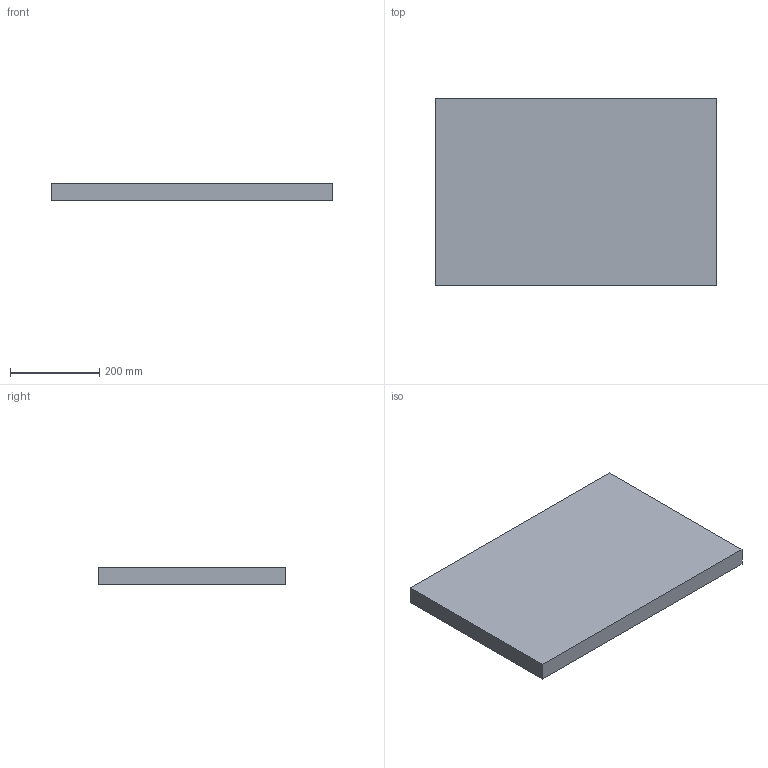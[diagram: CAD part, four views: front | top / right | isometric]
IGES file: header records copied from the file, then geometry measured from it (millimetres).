
Start section: Data from Parasolid IGES Translator 19.0.9, Copyright(c) 2006 Siemens PL M Software. All Rights Reserved.
Global section: file name: noorth-SI-H 4 D 42 W mtl-9_2510.igs; native system: By Siemens PLM Incorporated; preprocessor: XPlus GENERIC/IGES 19.0.9; author: Noname; organization: Noname; date: 20200601.142932; units: metre
Bounding box: 630 x 420 x 40 mm (x, y, z)
Volume: 10584000 mm3; surface area: 613200 mm2
Topology: 1 solids, 1 shells, 6 faces, 12 edges, 8 vertices
Faces by surface type: plane 6
